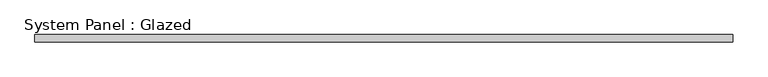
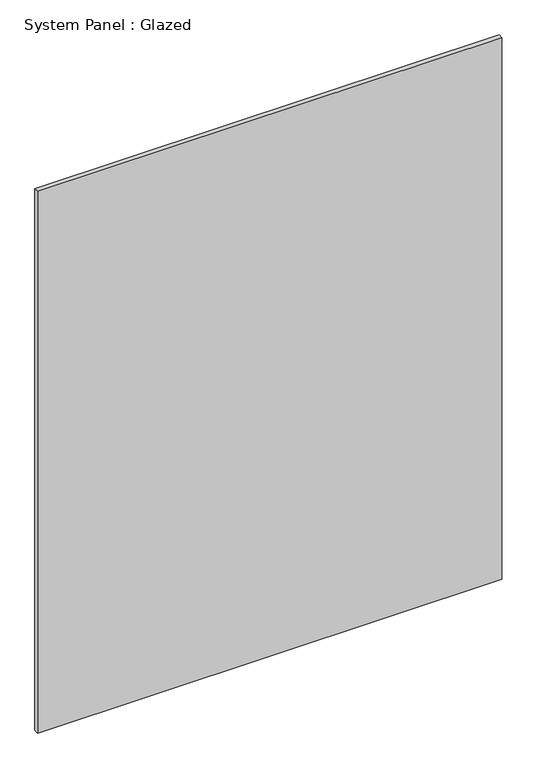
"""IFC4 building model written with IfcOpenShell, lengths in millimetres: plate geometry, System Panel : Glazed."""

from ifc_helpers import new_model, si_unit, origin, origin_with_axes, place, context, project, spatial, polyline, outline, extrude, source, transform, mapped, element, save


def system_panel_glazed_d0cb5eef(model_context):
    return source(origin(), model_context, "Body", "SweptSolid", [
        extrude(outline(polyline([(1222.3750001, 19.05), (-1222.3750001, 19.05), (-1222.3750001, 44.45), (1222.3750001, 44.45), (1222.3750001, 19.05)])), origin_with_axes(), (0.0, 0.0, 1.0), 3016.25),
    ])


if __name__ == "__main__":
    model = new_model("IFC4")
    model_context = context("Model", 3, world=origin())
    ifc_project = project(units=[si_unit("LENGTHUNIT", "METRE", prefix="MILLI")], contexts=[model_context])
    site = spatial("IfcSite", under=ifc_project)
    building = spatial("IfcBuilding", under=site)
    placement = place(None, origin())
    system_panel_glazed_shape = system_panel_glazed_d0cb5eef(model_context)
    element("IfcPlate", 1, ObjectType="System Panel : Glazed", at=placement, inside=building, context=model_context, shape_type="MappedRepresentation", body=[
        mapped(system_panel_glazed_shape, transform((0.0, 0.0, 0.0), x_axis=(1.0, 0.0, 0.0), y_axis=(0.0, 1.0, 0.0), z_axis=(0.0, 0.0, 1.0))),
    ])
    save(model, "model.ifc")
